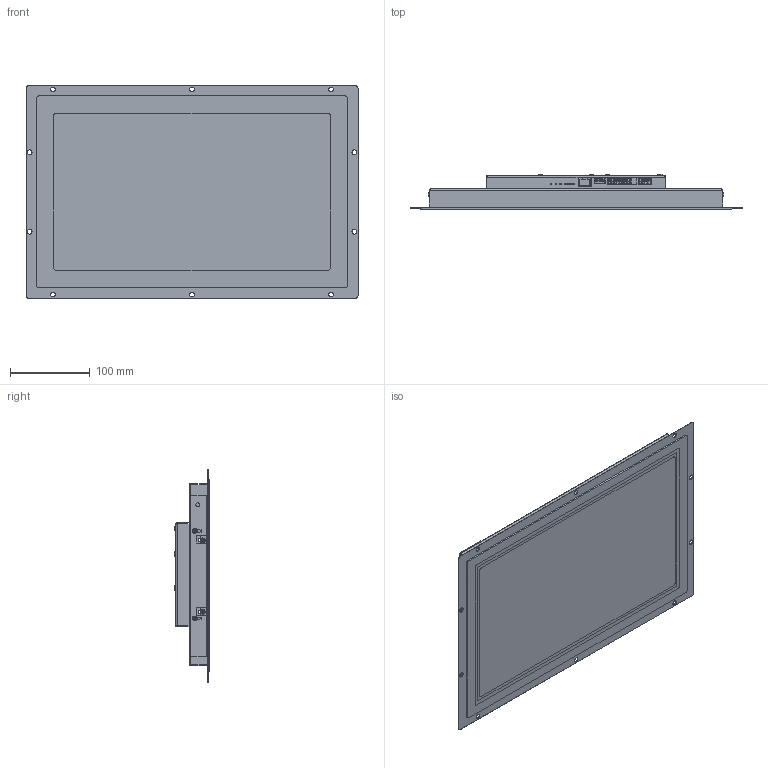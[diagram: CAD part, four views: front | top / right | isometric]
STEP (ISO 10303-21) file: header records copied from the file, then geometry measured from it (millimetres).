
FILE_DESCRIPTION(/* description */ ('fel4B-05A-15,6 Zoll DM-Line'),/* implementation_level */ '2;1');
FILE_NAME(/* name */ 'Z:\Teildatei Inventor\Inventor-Bibliothek\0000 0000 Bauteile\Bildschirme\TFT 15_6 Zoll Touch\20000193 fel4B-05A-15,6 Zoll DM-Line.stp',/* time_stamp */ '2019-11-04T12:36:58+01:00',/* author */ ('Markus Lahey'),/* organization */ (''),/* preprocessor_version */ 'ST-DEVELOPER v17.2',/* originating_system */ 'Autodesk Inventor 2019',/* authorisation */ '');
FILE_SCHEMA (('AUTOMOTIVE_DESIGN { 1 0 10303 214 3 1 1 }'));
Products named in the file (1): 00004942
Bounding box: 417.6 x 44.65 x 267 mm (x, y, z)
Volume: 1004585.2 mm3; surface area: 777053.9 mm2
Topology: 38 solids, 38 shells, 1612 faces, 4286 edges, 2841 vertices
Faces by surface type: plane 998, cylinder 345, bspline 143, cone 96, torus 26, sphere 4
Full cylindrical faces by diameter (mm): 0.4 x11, 1.5 x3, 2.459 x10, 3 x26, 3.1 x6, 3.45 x4, 4.4 x4, 5 x8, 5.42 x4, 5.7 x18, 6 x10, 6.15 x4
Entity records: 53628 total; most frequent: CARTESIAN_POINT 11915, ORIENTED_EDGE 8520, DIRECTION 7804, EDGE_CURVE 4260, VERTEX_POINT 2841, LINE 2712, VECTOR 2712, AXIS2_PLACEMENT_3D 2546
